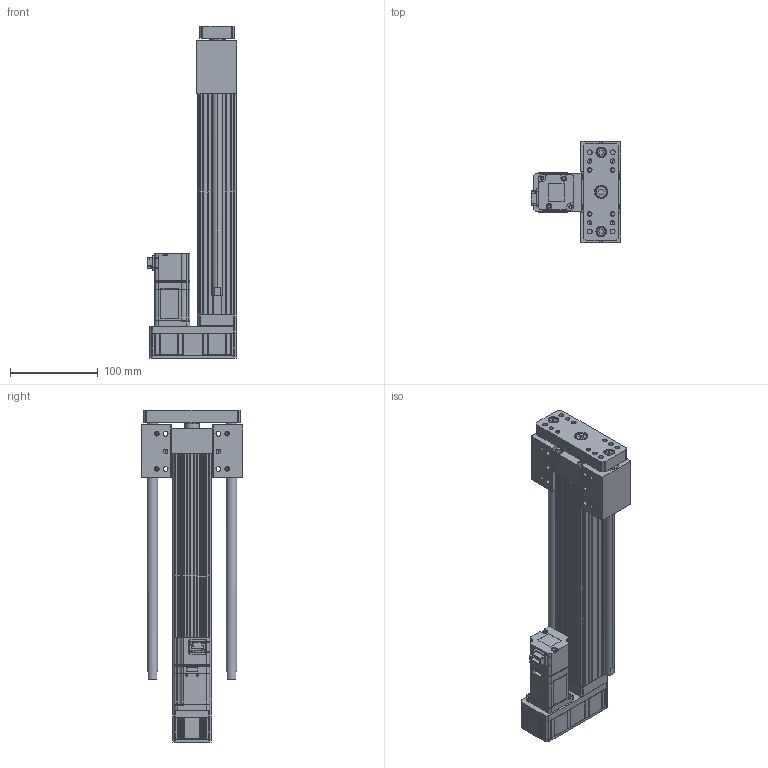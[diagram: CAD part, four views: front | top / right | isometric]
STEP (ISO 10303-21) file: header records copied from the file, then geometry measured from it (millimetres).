
FILE_DESCRIPTION (( 'STEP AP203' ), '1' );
FILE_NAME ('ANS045-HP200-05(10)-W10.STEP', '2019-02-14T03:04:24', ( 'user' ), ( '' ), 'SwSTEP 2.0', 'SolidWorks 2013', '' );
FILE_SCHEMA (( 'CONFIG_CONTROL_DESIGN' ));
Length unit declared in the file: millimetre
Products named in the file (4): ANS045 HP200 VER2; ANS045 ROD ST200 H; SGMJV_01A_A21; ANS045-HP200-05(10)-W10
Assembly tree (3 placements, depth 2):
  ANS045-HP200-05(10)-W10
    ANS045 HP200 VER2
    ANS045 ROD ST200 H
    SGMJV_01A_A21
Bounding box: 102.3 x 115 x 377.5 mm (x, y, z)
Volume: 906463.1 mm3; surface area: 267591.8 mm2
Topology: 3 solids, 11 shells, 1245 faces, 3210 edges, 2044 vertices
Faces by surface type: plane 670, cylinder 431, cone 142, bspline 2
Entity records: 38032 total; most frequent: CARTESIAN_POINT 7187, ORIENTED_EDGE 6380, DIRECTION 6326, EDGE_CURVE 3190, VECTOR 2140, LINE 2140, AXIS2_PLACEMENT_3D 2093, VERTEX_POINT 2044
